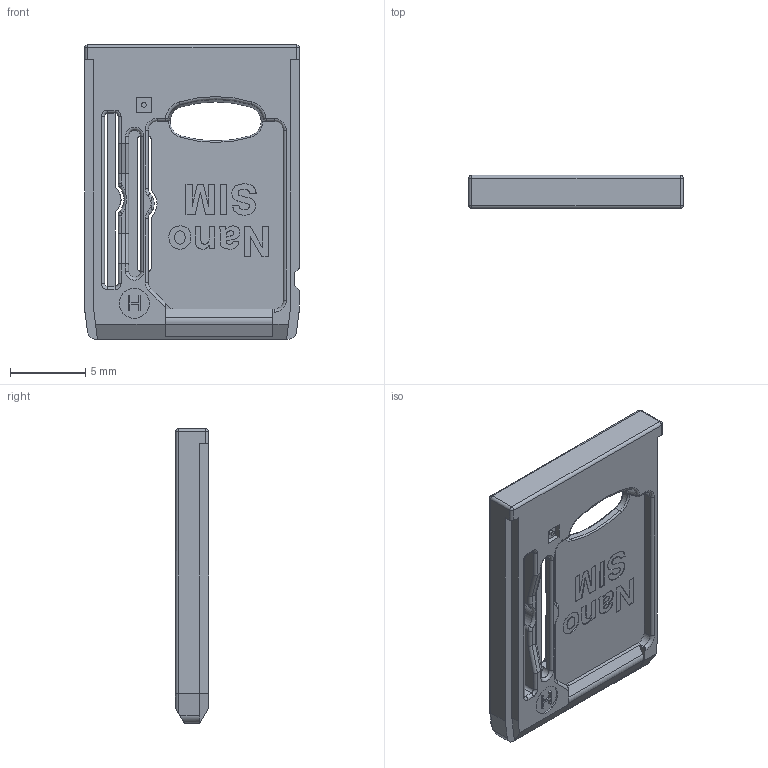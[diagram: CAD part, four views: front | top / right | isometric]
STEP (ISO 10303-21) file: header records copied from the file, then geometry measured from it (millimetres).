
FILE_DESCRIPTION((''),'2;1');
FILE_NAME('115U-T009_C_2','2025-06-24T',('fros.liao'),(''),'CREO PARAMETRIC BY PTC INC, 2015080','CREO PARAMETRIC BY PTC INC, 2015080','');
FILE_SCHEMA(('CONFIG_CONTROL_DESIGN'));
Length unit declared in the file: millimetre
Products named in the file (1): 115U-T009_C_2
Bounding box: 14.3 x 2.2 x 19.6 mm (x, y, z)
Volume: 276.9 mm3; surface area: 793 mm2
Topology: 1 solids, 1 shells, 547 faces, 1482 edges, 942 vertices
Faces by surface type: plane 205, extrusion 156, cylinder 109, torus 55, sphere 12, cone 6, bspline 4
Entity records: 18126 total; most frequent: CARTESIAN_POINT 4881, ORIENTED_EDGE 2944, DIRECTION 2333, EDGE_CURVE 1472, VECTOR 955, VERTEX_POINT 942, LINE 799, AXIS2_PLACEMENT_3D 689
